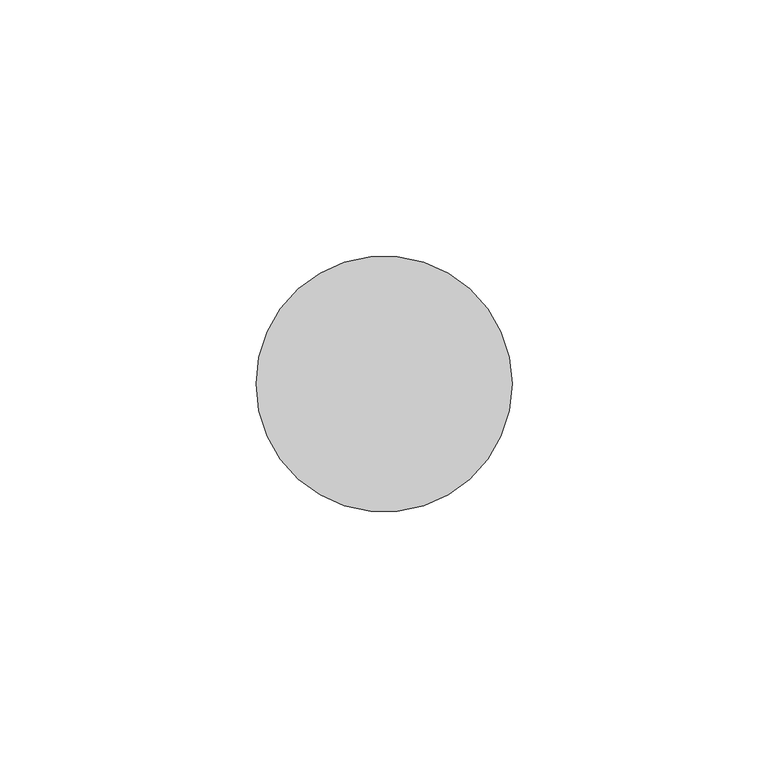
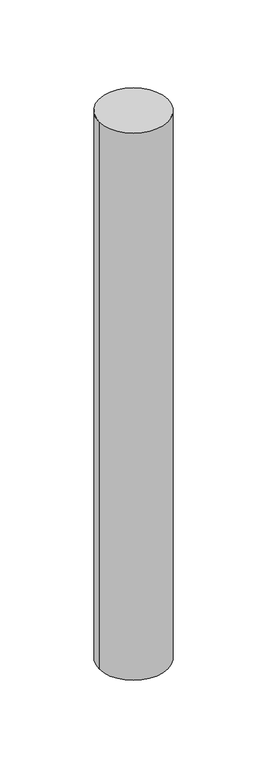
"""IFC4 building model written with IfcOpenShell, lengths in millimetres: member geometry, 圓形豎框 : 25mm 半徑."""

from ifc_helpers import new_model, si_unit, point, frame, origin, origin_2d, place, context, project, spatial, circle_curve, trimmed, segment, composite_curve, outline, extrude, source, transform, mapped, element, save


def member_f332dd52(model_context):
    return source(origin(), model_context, "Body", "SweptSolid", [
        extrude(outline(composite_curve([segment(trimmed(circle_curve(origin_2d(), 25.0), [point((25.0, 0.0))], [point((-25.0, 0.0))], False, "CARTESIAN"), True, "CONTINUOUS"), segment(trimmed(circle_curve(origin_2d(), 25.0), [point((-25.0, 0.0))], [point((25.0, 0.0))], False, "CARTESIAN"), True, "CONTINUOUS")], self_intersect=False)), frame((0.0, 0.0, -420.491591), z_axis=(0.0, 0.0, 1.0), x_axis=(1.0, 0.0, 0.0)), (0.0, 0.0, 1.0), 420.491591),
    ])


if __name__ == "__main__":
    model = new_model("IFC4")
    model_context = context("Model", 3, world=origin())
    ifc_project = project(units=[si_unit("LENGTHUNIT", "METRE", prefix="MILLI")], contexts=[model_context])
    site = spatial("IfcSite", under=ifc_project)
    building = spatial("IfcBuilding", under=site)
    placement = place(None, origin())
    member_shape = member_f332dd52(model_context)
    element("IfcMember", 1, ObjectType="圓形豎框 : 25mm 半徑", at=placement, inside=building, context=model_context, shape_type="MappedRepresentation", body=[
        mapped(member_shape, transform((0.0, 0.0, 0.0), x_axis=(1.0, 0.0, 0.0), y_axis=(0.0, 1.0, 0.0), z_axis=(0.0, 0.0, 1.0))),
    ])
    save(model, "model.ifc")
